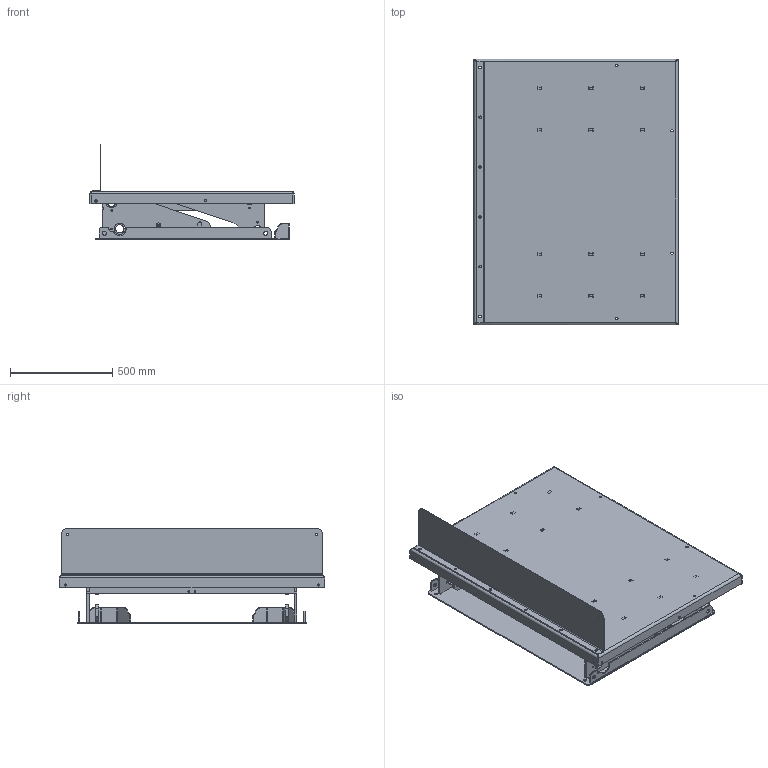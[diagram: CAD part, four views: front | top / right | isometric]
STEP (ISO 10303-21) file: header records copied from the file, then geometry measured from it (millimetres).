
FILE_DESCRIPTION(/* description */ ('ART 1500 (1000x1300)'),/* implementation_level */ '2;1');
FILE_NAME(/* name */ 'C:\Autodesk_VaultWork\Ritningar\STP\22023_Collapsed.stp',/* time_stamp */ '2019-06-26T08:07:55+02:00',/* author */ ('johso'),/* organization */ (''),/* preprocessor_version */ 'ST-DEVELOPER v16.5',/* originating_system */ 'Autodesk Inventor 2017',/* authorisation */ '');
FILE_SCHEMA (('AUTOMOTIVE_DESIGN { 1 0 10303 214 3 1 1 }'));
Length unit declared in the file: millimetre
Products named in the file (15): 22023.tmp; 35062; 609164; 609162; 609163; 34547; 34509; 35061; 34561; 35060; 34559; 35064; 35391; 34557; 34546
Assembly tree (20 placements, depth 3):
  22023.tmp
    35062
      609164
      609162
      609163  x2
      34547  x2
      34509  x2
    35061
      34561  x2
    35060
      34559  x2
    35064
      35391
      34557  x2
    34546
Bounding box: 1000 x 1300 x 465 mm (x, y, z)
Volume: 22862405.9 mm3; surface area: 7102890.8 mm2
Topology: 16 solids, 16 shells, 1374 faces, 3958 edges, 2620 vertices
Faces by surface type: cylinder 872, plane 494, bspline 8
Full cylindrical faces by diameter (mm): 5.7 x2, 6.9 x4, 7.4 x16, 8.5 x2, 11 x4, 12 x12, 12.5 x12, 15 x4, 20 x6, 30.2 x4
Entity records: 34213 total; most frequent: DIRECTION 6156, CARTESIAN_POINT 6117, ORIENTED_EDGE 5680, EDGE_CURVE 2840, AXIS2_PLACEMENT_3D 2299, VERTEX_POINT 1908, LINE 1558, VECTOR 1558
